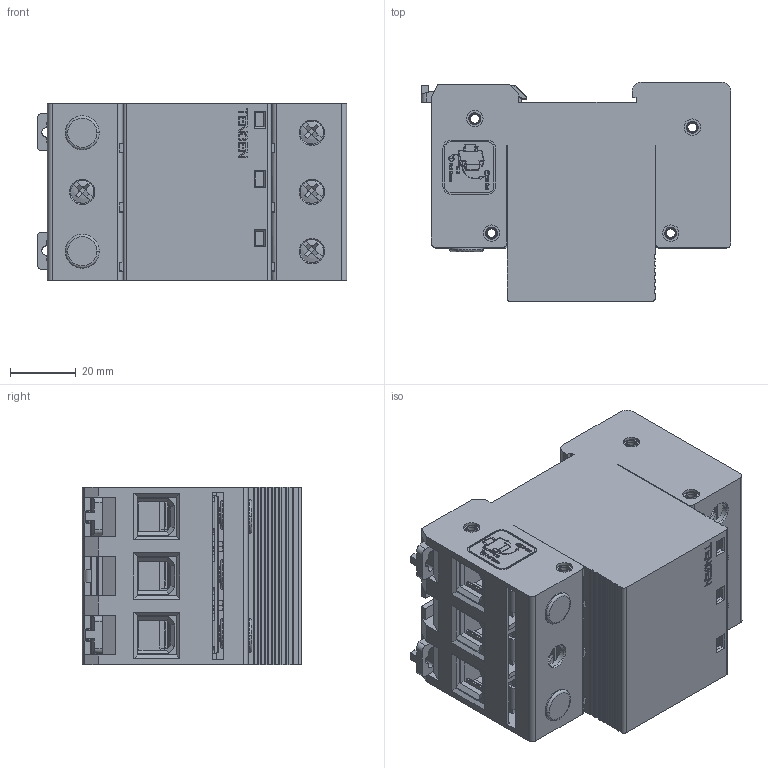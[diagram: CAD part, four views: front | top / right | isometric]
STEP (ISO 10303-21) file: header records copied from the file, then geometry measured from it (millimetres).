
FILE_DESCRIPTION((''),'2;1');
FILE_NAME('TENGEN_TGDY55II_20_40_385V_3P','2024-01-09T16:44:31',('zhanghualong1'),(''),'CREO PARAMETRIC BY PTC INC, 2020354','CREO PARAMETRIC BY PTC INC, 2020354','');
FILE_SCHEMA(('CONFIG_CONTROL_DESIGN'));
Products named in the file (1): TENGEN_TGDY55II_20_40_385V_3P
Bounding box: 94.1 x 66.7 x 54 mm (x, y, z)
Volume: 135240.1 mm3; surface area: 142870.3 mm2
Topology: 11 solids, 17 shells, 6061 faces, 16691 edges, 10767 vertices
Faces by surface type: plane 4458, cylinder 1065, extrusion 233, cone 142, torus 99, bspline 40, sphere 24
Entity records: 196384 total; most frequent: CARTESIAN_POINT 41781, ORIENTED_EDGE 33358, DIRECTION 29952, EDGE_CURVE 16679, VECTOR 13712, LINE 13479, VERTEX_POINT 10767, AXIS2_PLACEMENT_3D 8120
